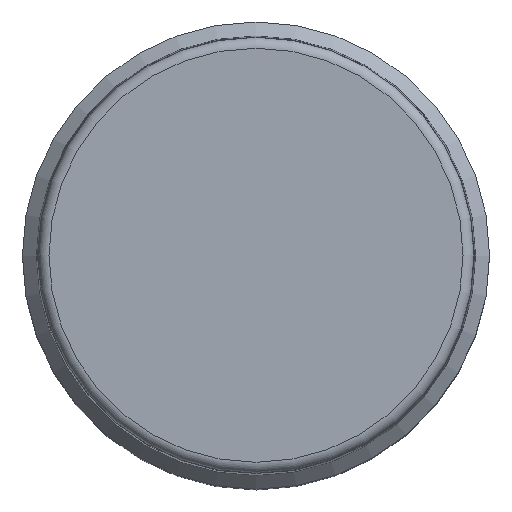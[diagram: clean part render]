
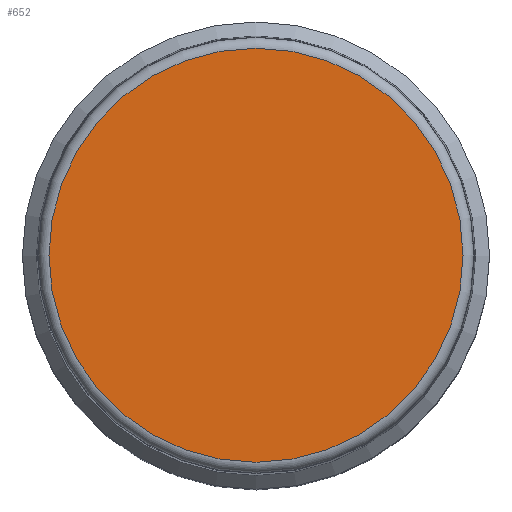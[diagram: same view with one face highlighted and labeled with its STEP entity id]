
A CAD part, top view. The second image highlights one B-rep face of the part: STEP entity #652.
In plain terms, the highlighted planar face has unit normal (0, 0, 1).
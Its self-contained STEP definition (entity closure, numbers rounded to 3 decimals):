
#34=PLANE('',#734);
#157=FACE_OUTER_BOUND('',#212,.T.);
#212=EDGE_LOOP('',(#535));
#256=CIRCLE('',#733,13.206);
#306=VERTEX_POINT('',#1086);
#401=EDGE_CURVE('',#306,#306,#256,.T.);
#535=ORIENTED_EDGE('',*,*,#401,.T.);
#652=ADVANCED_FACE('',(#157),#34,.T.);
#733=AXIS2_PLACEMENT_3D('',#1087,#890,#891);
#734=AXIS2_PLACEMENT_3D('',#1088,#892,#893);
#890=DIRECTION('center_axis',(0.,0.,1.));
#891=DIRECTION('ref_axis',(1.,0.,0.));
#892=DIRECTION('center_axis',(0.,0.,1.));
#893=DIRECTION('ref_axis',(1.,0.,0.));
#1086=CARTESIAN_POINT('',(-13.206,0.,34.));
#1087=CARTESIAN_POINT('Origin',(0.,0.,34.));
#1088=CARTESIAN_POINT('Origin',(0.,0.,34.));
